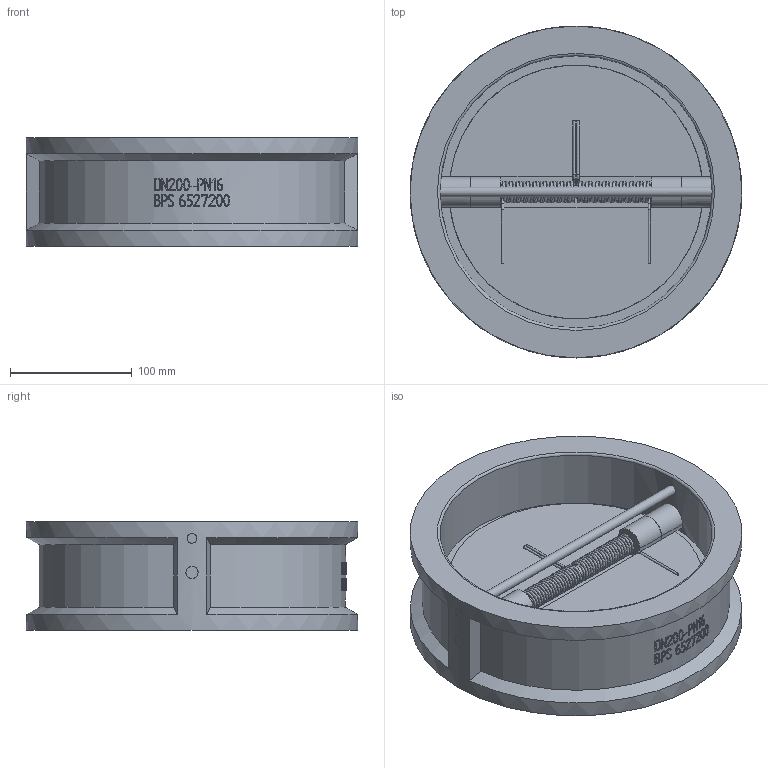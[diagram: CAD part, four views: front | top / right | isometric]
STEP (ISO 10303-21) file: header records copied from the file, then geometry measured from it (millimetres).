
FILE_DESCRIPTION( ( 'Unknown' ), '1' );
FILE_NAME( 'C:/Documents and Settings/Klaus/My Documents/Rootsi BPS 3D, Klaus/BPS 6527 double-door swing check valve/STEP/BPS6527200 double door swing check valve DN200.stp', 'Unknown', ( 'Unknown' ), ( 'Unknown' ), 'PSStep 10.1', 'Unknown', ' ' );
FILE_SCHEMA( ( 'AUTOMOTIVE_DESIGN { 1 0 10303 214 1 1 1 1 }' ) );
Length unit declared in the file: millimetre
Products named in the file (1): 1
Bounding box: 273 x 273 x 89 mm (x, y, z)
Volume: 2311835.4 mm3; surface area: 287327.9 mm2
Topology: 1 solids, 1 shells, 280 faces, 673 edges, 432 vertices
Faces by surface type: plane 111, bspline 94, cylinder 62, torus 7, cone 6
Full cylindrical faces by diameter (mm): 2 x6, 8 x1, 10 x3, 208.8 x1, 224 x1, 273 x1
Entity records: 27696 total; most frequent: CARTESIAN_POINT 20243, ORIENTED_EDGE 1250, DIRECTION 626, EDGE_CURVE 625, B_SPLINE_CURVE_WITH_KNOTS 455, VERTEX_POINT 424, EDGE_LOOP 373, FACE_OUTER_BOUND 318
